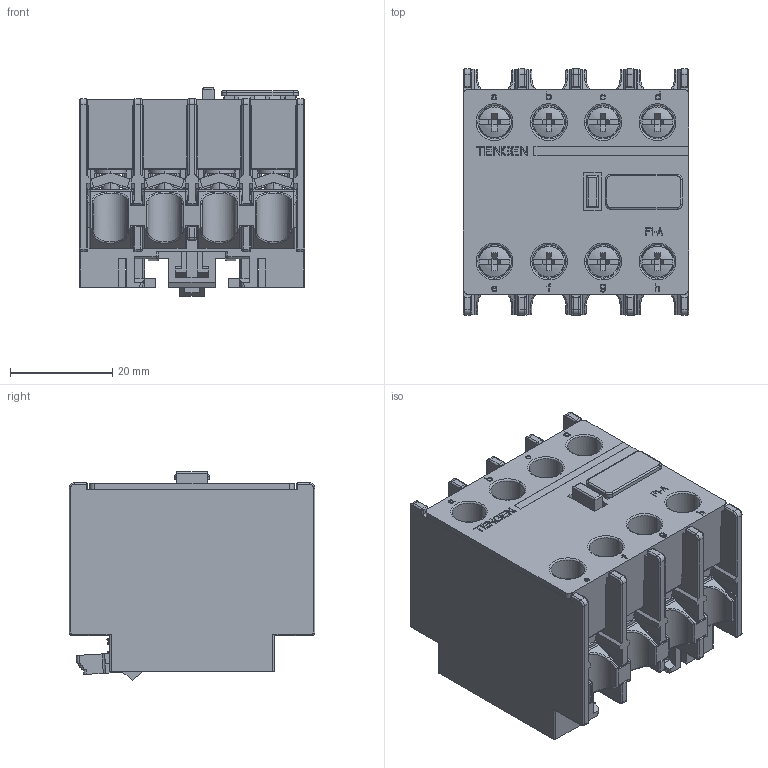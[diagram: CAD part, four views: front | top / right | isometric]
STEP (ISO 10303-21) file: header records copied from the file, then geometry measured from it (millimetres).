
FILE_DESCRIPTION (( 'STEP AP214' ), '1' );
FILE_NAME ('F1-4 (1).STEP', '2026-01-30T09:47:34', ( '' ), ( '' ), 'SwSTEP 2.0', 'SolidWorks 2024', '' );
FILE_SCHEMA (( 'AUTOMOTIVE_DESIGN' ));
Length unit declared in the file: millimetre
Products named in the file (26): F1-4 (1); 5TZD_550_1171_ASM_2.stp; 8TZD_100_1129_1.stp; 8TZD_553_1082_2.stp; 8TZD_282_1252_AF1_1.stp; 8TZD_557_1219_1.stp; Q_TZJ0303_3-M3_5X9_5_2.stp; 8TZD_315_1779_2_1.stp; F1-4 (1).stp; 8TZD_557_1147_2.stp; 8TZD_550_3009_AF0_1.stp; 5TZD_550_1172_ASM_1.stp; 8TZD_104_1102_1.stp; 8TZD_550_3010_AF0_2.stp; 5TZD_553_1110_ASM_1.stp; 8TZD_550_3009_AF1_1.stp; 8TZD_885_1033_2_1.stp; 8TZD_282_1253_AF0_1.stp; 8TZD_282_1252_AF0_1.stp; 8TZD_005_1056_1.stp; 8TZD_315_1587_1.stp; 5TZD_104_1125_1_ASM_1.stp; 8TZD_282_1254_AF1_1.stp; 8TZD_550_3010_1.stp; 8TZD_282_1253_AF1_1.stp; 8TZD_810_1027_2_1.stp
Assembly tree (43 placements, depth 5):
  F1-4 (1)
    F1-4 (1).stp
      5TZD_104_1125_1_ASM_1.stp
        5TZD_553_1110_ASM_1.stp  x4
          8TZD_553_1082_2.stp
          8TZD_550_3009_AF0_1.stp
          8TZD_550_3009_AF1_1.stp
        8TZD_104_1102_1.stp
        8TZD_282_1252_AF0_1.stp
        8TZD_282_1252_AF1_1.stp
        8TZD_100_1129_1.stp  x2
        8TZD_282_1253_AF0_1.stp
        8TZD_282_1253_AF1_1.stp
      5TZD_550_1172_ASM_1.stp  x4
        8TZD_557_1219_1.stp
        8TZD_550_3010_1.stp
      5TZD_550_1171_ASM_2.stp  x4
        8TZD_557_1147_2.stp
        8TZD_550_3010_AF0_2.stp
      8TZD_005_1056_1.stp
      8TZD_315_1779_2_1.stp
      Q_TZJ0303_3-M3_5X9_5_2.stp  x8
      8TZD_810_1027_2_1.stp
      8TZD_315_1587_1.stp  x2
      8TZD_885_1033_2_1.stp
      8TZD_282_1254_AF1_1.stp
Bounding box: 44 x 48 x 40.75 mm (x, y, z)
Volume: 29292.5 mm3; surface area: 49950.5 mm2
Topology: 34 solids, 66 shells, 4828 faces, 13095 edges, 8444 vertices
Faces by surface type: plane 3472, cylinder 938, torus 140, sphere 138, bspline 96, cone 44
Entity records: 106933 total; most frequent: CARTESIAN_POINT 32532, ORIENTED_EDGE 16008, DIRECTION 14237, EDGE_CURVE 8010, VECTOR 6383, LINE 6383, VERTEX_POINT 5163, AXIS2_PLACEMENT_3D 3927
